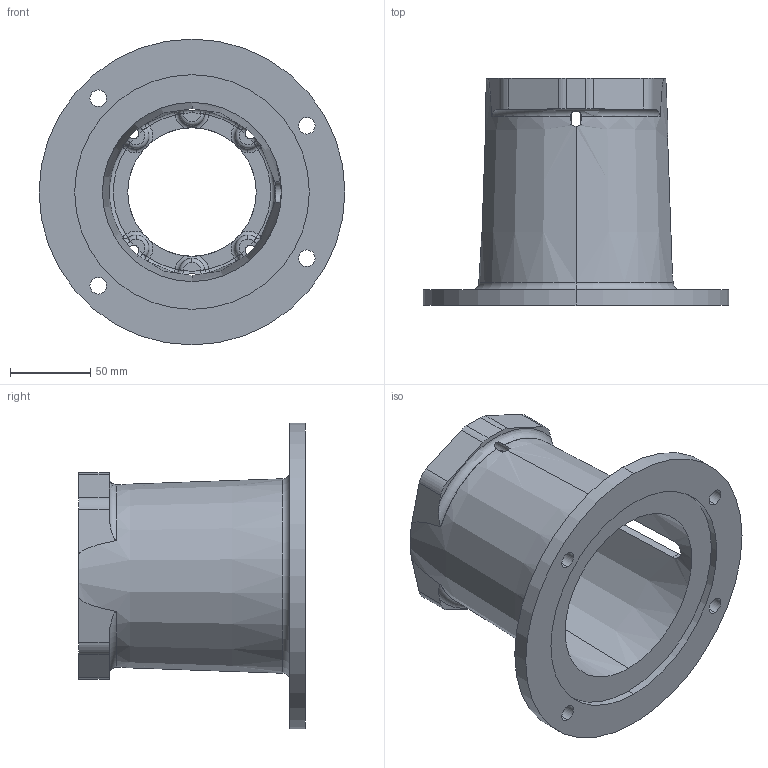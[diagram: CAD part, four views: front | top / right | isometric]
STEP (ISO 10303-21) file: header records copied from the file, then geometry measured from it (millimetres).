
FILE_DESCRIPTION (( 'STEP AP203' ), '1' );
FILE_NAME ('E5755280M.STEP', '2014-11-03T15:45:35', ( '' ), ( '' ), 'SwSTEP 2.0', 'SolidWorks 2014', '' );
FILE_SCHEMA (( 'CONFIG_CONTROL_DESIGN' ));
Length unit declared in the file: inch
Products named in the file (1): E5755280M
Bounding box: 190.5 x 141.22 x 190.5 mm (x, y, z)
Volume: 448565.6 mm3; surface area: 149312.6 mm2
Topology: 1 solids, 1 shells, 187 faces, 515 edges, 306 vertices
Faces by surface type: torus 53, cylinder 36, plane 30, sphere 24, bspline 24, cone 20
Entity records: 7979 total; most frequent: CARTESIAN_POINT 3307, ORIENTED_EDGE 998, DIRECTION 990, EDGE_CURVE 499, AXIS2_PLACEMENT_3D 457, VERTEX_POINT 306, CIRCLE 293, EDGE_LOOP 207
